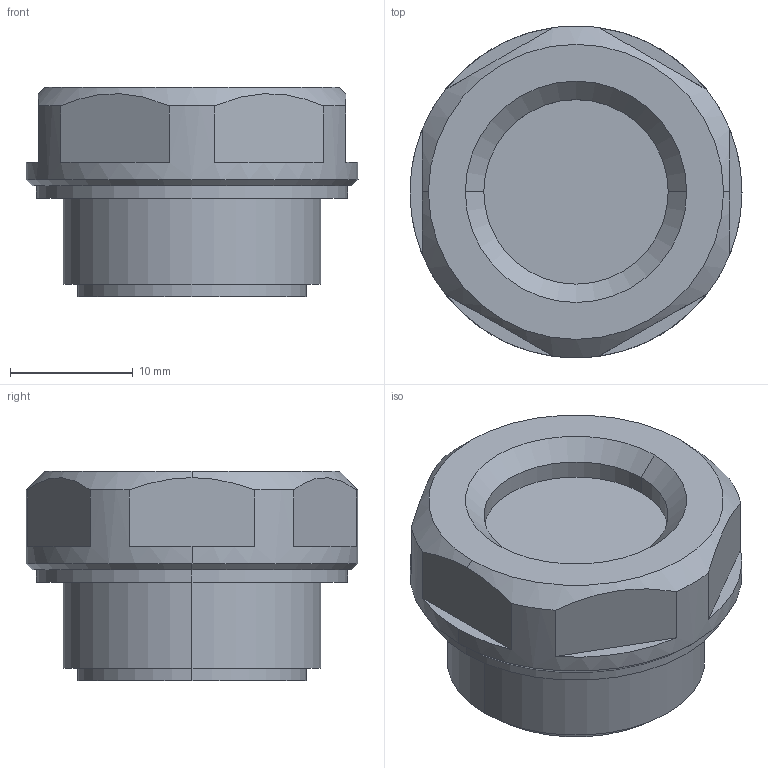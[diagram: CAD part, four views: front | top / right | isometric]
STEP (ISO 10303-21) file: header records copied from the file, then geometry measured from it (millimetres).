
FILE_DESCRIPTION (( 'STEP AP203' ), '1' );
FILE_NAME ('fg-13n.STEP', '2021-10-25T23:59:27', ( '' ), ( '' ), 'SwSTEP 2.0', 'SolidWorks 2020', '' );
FILE_SCHEMA (( 'CONFIG_CONTROL_DESIGN' ));
Length unit declared in the file: millimetre
Products named in the file (1): fg-13n
Bounding box: 27 x 27 x 17 mm (x, y, z)
Volume: 6875.8 mm3; surface area: 2439 mm2
Topology: 1 solids, 1 shells, 34 faces, 80 edges, 52 vertices
Faces by surface type: plane 18, cylinder 10, cone 6
Entity records: 1115 total; most frequent: CARTESIAN_POINT 231, DIRECTION 180, ORIENTED_EDGE 160, EDGE_CURVE 80, AXIS2_PLACEMENT_3D 73, VERTEX_POINT 52, EDGE_LOOP 38, CIRCLE 38
